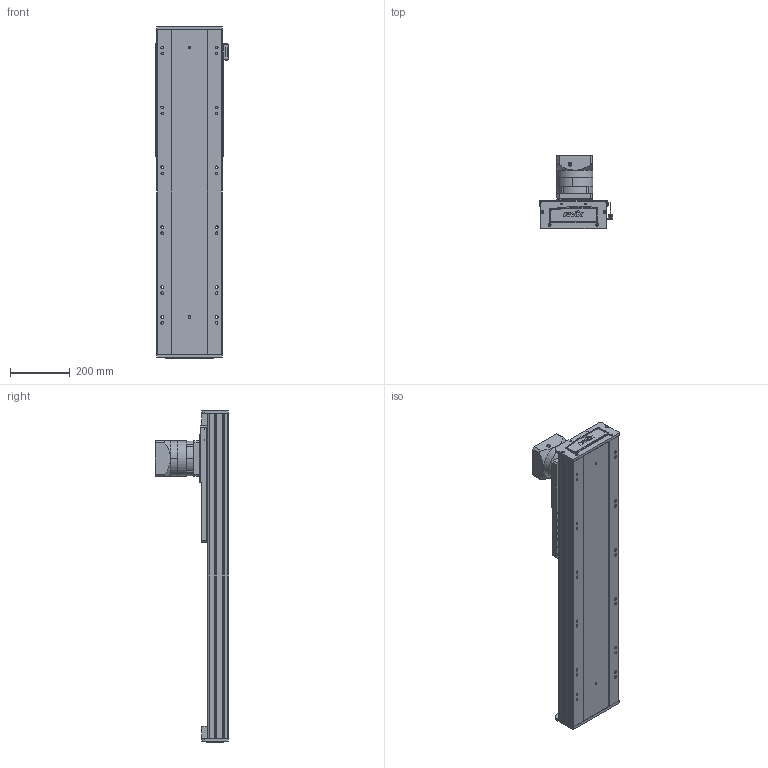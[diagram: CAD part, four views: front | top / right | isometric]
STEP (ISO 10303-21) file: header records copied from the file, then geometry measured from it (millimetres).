
FILE_DESCRIPTION (( 'STEP AP203' ), '1' );
FILE_NAME ('RY220-C-300-UK.SLDASM_0600.step', '2022-08-01T05:58:43', ( '' ), ( '' ), 'SwSTEP 2.0', 'SolidWorks 2016', '' );
FILE_SCHEMA (( 'CONFIG_CONTROL_DESIGN' ));
Length unit declared in the file: millimetre
Products named in the file (10): RY220-C-300-UK.SLDASM_0600; 滅袉蝶輸ㄗG412隅秶ㄘ; RY220喘沭俋离覜茼え; 覜茼ん674; RY220喘沭綴裔啣; RY220-齿条模组电机安装板; PF115L1-S2-22-58-110-145-M8; RY220菁釱MK-300_0600; RY220喘沭賑輸; RY140直线电机感应器674光电安装座
Assembly tree (12 placements, depth 2):
  RY220-C-300-UK.SLDASM_0600
    RY220菁釱MK-300_0600
    RY220喘沭賑輸
    RY220-齿条模组电机安装板
    PF115L1-S2-22-58-110-145-M8
    RY220喘沭綴裔啣  x2
    滅袉蝶輸ㄗG412隅秶ㄘ  x2
    RY140直线电机感应器674光电安装座
    覜茼ん674  x2
    RY220喘沭俋离覜茼え
Bounding box: 247 x 244.5 x 1109 mm (x, y, z)
Volume: 10241419.9 mm3; surface area: 1959187.2 mm2
Topology: 18 solids, 26 shells, 1874 faces, 5013 edges, 3215 vertices
Faces by surface type: cylinder 835, plane 751, bspline 162, cone 126
Entity records: 59141 total; most frequent: CARTESIAN_POINT 16401, ORIENTED_EDGE 8674, DIRECTION 8667, EDGE_CURVE 4337, AXIS2_PLACEMENT_3D 3269, VERTEX_POINT 2841, VECTOR 2129, LINE 2129
